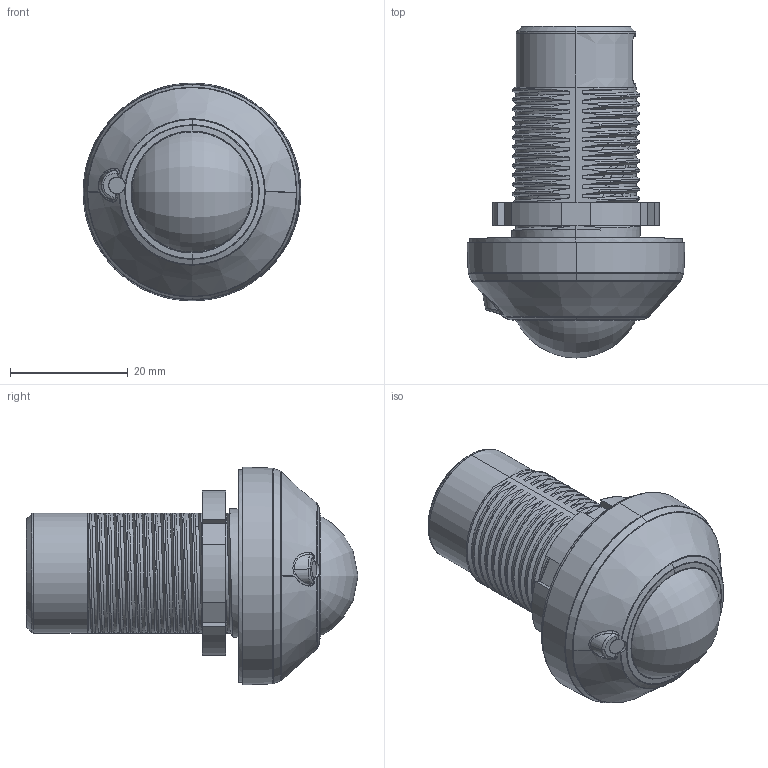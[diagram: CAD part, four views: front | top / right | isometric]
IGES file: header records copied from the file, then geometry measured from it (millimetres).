
Start section: SolidWorks IGES file using analytic representation for surfaces
Global section: file name: C:\Users\Public\HAOSENSOFTWARE\YFTSolidWorksArasPLM-V3.1.3-2023-beta\SaveAs_files\9C1-4552242-000-00.IGS; native system: SolidWorks 2023; preprocessor: SolidWorks 2023; author: P.SACHSENWEGER; date: 251030.131718; units: millimetre
Bounding box: 36.99 x 56.36 x 36.99 mm (x, y, z)
Surface area: 7490.9 mm2 (no closed solid volume)
Topology: 0 solids, 0 shells, 314 faces, 5103 edges, 5103 vertices
Faces by surface type: bspline 197, revolution 117
